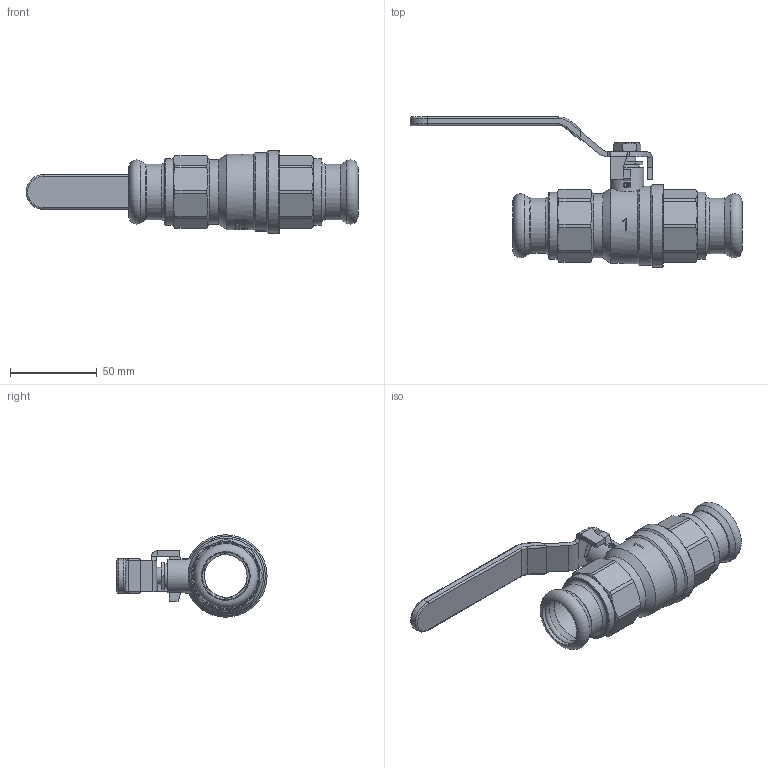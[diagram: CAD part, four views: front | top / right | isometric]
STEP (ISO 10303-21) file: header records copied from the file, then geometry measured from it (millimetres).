
FILE_DESCRIPTION((''),'2;1');
FILE_NAME('P:\Fastrack\53972_CRANE 3D\Press Fit\D171APF\D171A-PF\D171A-PF-28MM\D171A-PF-28MM.stp','2012-01-18T12:10:29',('dcole'),(''),'Autodesk Inventor 2008','Autodesk Inventor 2008','');
FILE_SCHEMA(('AUTOMOTIVE_DESIGN { 1 0 10303 214 1 1 1 1 }'));
Length unit declared in the file: millimetre
Products named in the file (1): D171A-PF-28MM
Bounding box: 191.2 x 86.42 x 47.5 mm (x, y, z)
Volume: 103357.2 mm3; surface area: 49126.5 mm2
Topology: 1 solids, 1 shells, 605 faces, 1893 edges, 1397 vertices
Faces by surface type: plane 294, cylinder 112, bspline 107, cone 77, torus 15
Full cylindrical faces by diameter (mm): 2 x2, 10 x1, 10.1 x2, 10.3 x1, 14 x1, 14.3 x1, 14.5 x1, 19.5 x1, 24.8 x5, 28 x4, 30.291 x2, 32 x2, 37 x1, 38.5 x2, 45.5 x1, 47.5 x1
Entity records: 48309 total; most frequent: CARTESIAN_POINT 31941, ORIENTED_EDGE 3588, DIRECTION 2680, EDGE_CURVE 1794, VERTEX_POINT 1369, AXIS2_PLACEMENT_3D 905, VECTOR 870, LINE 870
